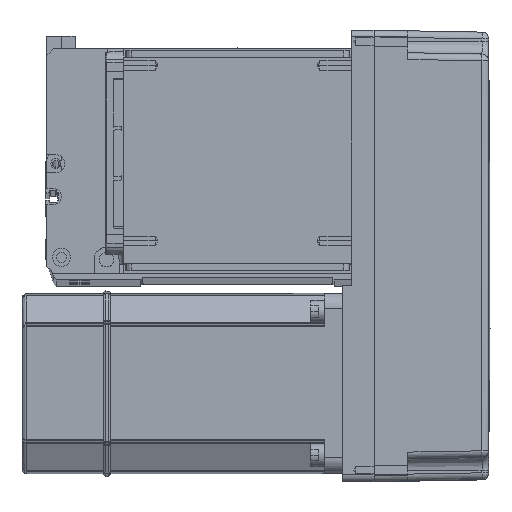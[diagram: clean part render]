
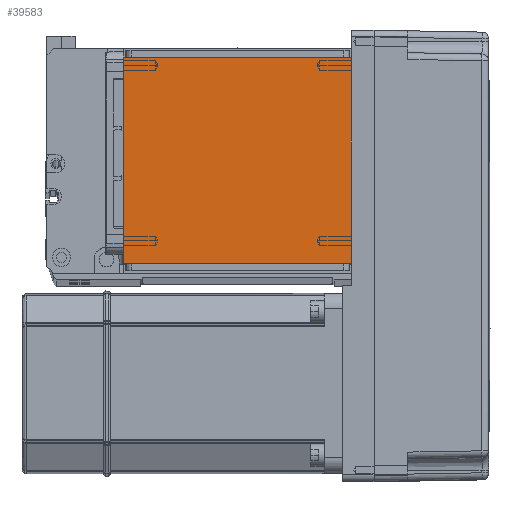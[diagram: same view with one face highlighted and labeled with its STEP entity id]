
A CAD part, top view. The second image highlights one B-rep face of the part: STEP entity #39583.
In plain terms, the highlighted planar face has unit normal (0, 0, 1).
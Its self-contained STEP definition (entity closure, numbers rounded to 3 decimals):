
#777 = DIRECTION ( 'NONE',  ( 0., -1., 0. ) ) ;
#2247 = DIRECTION ( 'NONE',  ( 1., 0., 0. ) ) ;
#2581 = VERTEX_POINT ( 'NONE', #13175 ) ;
#4783 = CARTESIAN_POINT ( 'NONE',  ( 50.5, 122., 115. ) ) ;
#5926 = CARTESIAN_POINT ( 'NONE',  ( -70.004, 111.5, 115. ) ) ;
#6342 = PLANE ( 'NONE',  #54266 ) ;
#7622 = ORIENTED_EDGE ( 'NONE', *, *, #41250, .T. ) ;
#10369 = LINE ( 'NONE', #52258, #34416 ) ;
#12409 = FACE_OUTER_BOUND ( 'NONE', #19246, .T. ) ;
#13175 = CARTESIAN_POINT ( 'NONE',  ( 50.5, 20., 115. ) ) ;
#14235 = EDGE_CURVE ( 'NONE', #2581, #32064, #19778, .T. ) ;
#15601 = VECTOR ( 'NONE', #52944, 1000. ) ;
#15819 = LINE ( 'NONE', #36805, #26060 ) ;
#17793 = LINE ( 'NONE', #5926, #15601 ) ;
#19246 = EDGE_LOOP ( 'NONE', ( #52335, #7622, #29976, #42114 ) ) ;
#19778 = LINE ( 'NONE', #4783, #57641 ) ;
#20745 = VERTEX_POINT ( 'NONE', #21165 ) ;
#21165 = CARTESIAN_POINT ( 'NONE',  ( -50.5, 111.5, 115. ) ) ;
#23588 = VERTEX_POINT ( 'NONE', #37605 ) ;
#24392 = EDGE_CURVE ( 'NONE', #20745, #32064, #17793, .T. ) ;
#26060 = VECTOR ( 'NONE', #46563, 1000. ) ;
#29976 = ORIENTED_EDGE ( 'NONE', *, *, #54641, .F. ) ;
#30168 = DIRECTION ( 'NONE',  ( 0., 0., 1. ) ) ;
#32064 = VERTEX_POINT ( 'NONE', #39421 ) ;
#34416 = VECTOR ( 'NONE', #777, 1000. ) ;
#36805 = CARTESIAN_POINT ( 'NONE',  ( -70.004, 20., 115. ) ) ;
#37605 = CARTESIAN_POINT ( 'NONE',  ( -50.5, 20., 115. ) ) ;
#39421 = CARTESIAN_POINT ( 'NONE',  ( 50.5, 111.5, 115. ) ) ;
#39583 = ADVANCED_FACE ( 'NONE', ( #12409 ), #6342, .T. ) ;
#41250 = EDGE_CURVE ( 'NONE', #20745, #23588, #10369, .T. ) ;
#42114 = ORIENTED_EDGE ( 'NONE', *, *, #14235, .T. ) ;
#46563 = DIRECTION ( 'NONE',  ( -1., 0., 0. ) ) ;
#52258 = CARTESIAN_POINT ( 'NONE',  ( -50.5, 122., 115. ) ) ;
#52335 = ORIENTED_EDGE ( 'NONE', *, *, #24392, .F. ) ;
#52944 = DIRECTION ( 'NONE',  ( 1., 0., 0. ) ) ;
#54266 = AXIS2_PLACEMENT_3D ( 'NONE', #58058, #30168, #2247 ) ;
#54641 = EDGE_CURVE ( 'NONE', #2581, #23588, #15819, .T. ) ;
#55067 = DIRECTION ( 'NONE',  ( 0., 1., 0. ) ) ;
#57641 = VECTOR ( 'NONE', #55067, 1000. ) ;
#58058 = CARTESIAN_POINT ( 'NONE',  ( 0., 0., 115. ) ) ;
